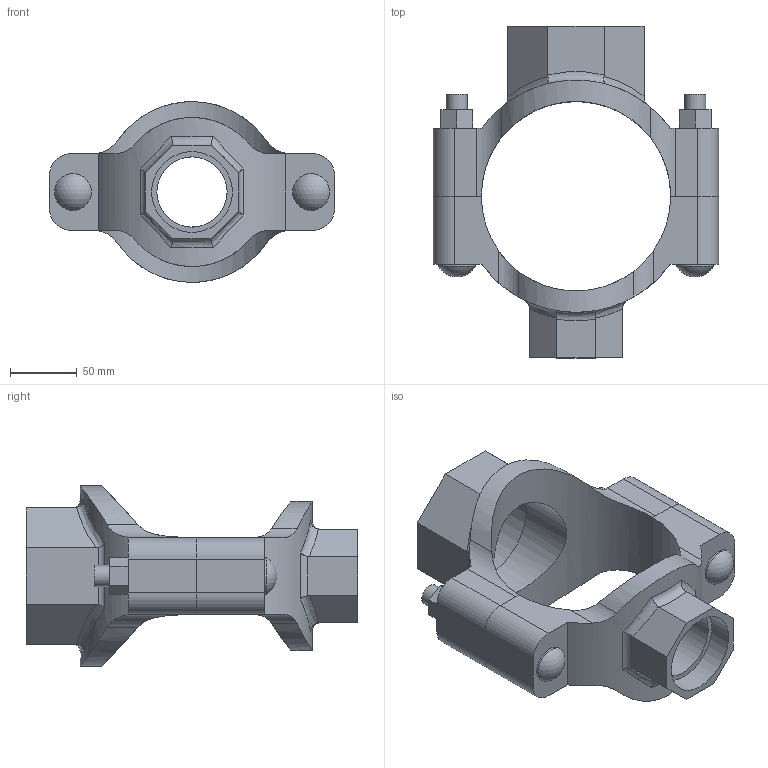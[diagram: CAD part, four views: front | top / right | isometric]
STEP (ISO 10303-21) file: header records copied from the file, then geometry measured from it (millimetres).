
FILE_DESCRIPTION(/* description */ ('VIC MECH-T BRANCH OUTLET CROSS STYLE 920N (THD)','CAx-IF Rec.Pracs.---Representation and Presentation of Product Manufacturing Information (PMI)---4.0---2014-10-13'),/* implementation_level */ '2;1');
FILE_NAME(/* name */ 'C:\Users\Vjadhav\AppData\Roaming\Autodesk\ApplicationPlugins\Back Up\Victaulic_IPS_Mechanical-Cross Outlet_Style 920N (FPT)\Victaulic_IPS_Mechanical-Cross Outlet_05.0x03.0x02.0 (125x80x50).stp',/* time_stamp */ '2020-08-06T18:59:25+05:00',/* author */ ('Vjadhav'),/* organization */ ('Victaulic'),/* preprocessor_version */ 'ST-DEVELOPER v17.2',/* originating_system */ 'Autodesk Inventor 2019',/* authorisation */ '');
FILE_SCHEMA (('AP242_MANAGED_MODEL_BASED_3D_ENGINEERING_MIM_LF { 1 0 10303 442 1 1 4 }'));
Length unit declared in the file: inch
Products named in the file (3): 920NT-05.0x03.0x02.0; 920T-05.0x03.0; 920T-05.0x02.0
Assembly tree (2 placements, depth 2):
  920NT-05.0x03.0x02.0
    920T-05.0x03.0
    920T-05.0x02.0
Bounding box: 212.85 x 247.65 x 134.77 mm (x, y, z)
Volume: 990910.3 mm3; surface area: 181712.9 mm2
Topology: 2 solids, 2 shells, 128 faces, 338 edges, 228 vertices
Faces by surface type: plane 68, cylinder 46, bspline 8, torus 4, sphere 2
Full cylindrical faces by diameter (mm): 15.875 x4, 27.496 x2, 52.387 x1, 60.325 x1, 77.787 x1, 88.9 x1
Entity records: 5152 total; most frequent: CARTESIAN_POINT 1747, ORIENTED_EDGE 676, DIRECTION 628, EDGE_CURVE 338, VERTEX_POINT 228, AXIS2_PLACEMENT_3D 223, LINE 182, VECTOR 182
